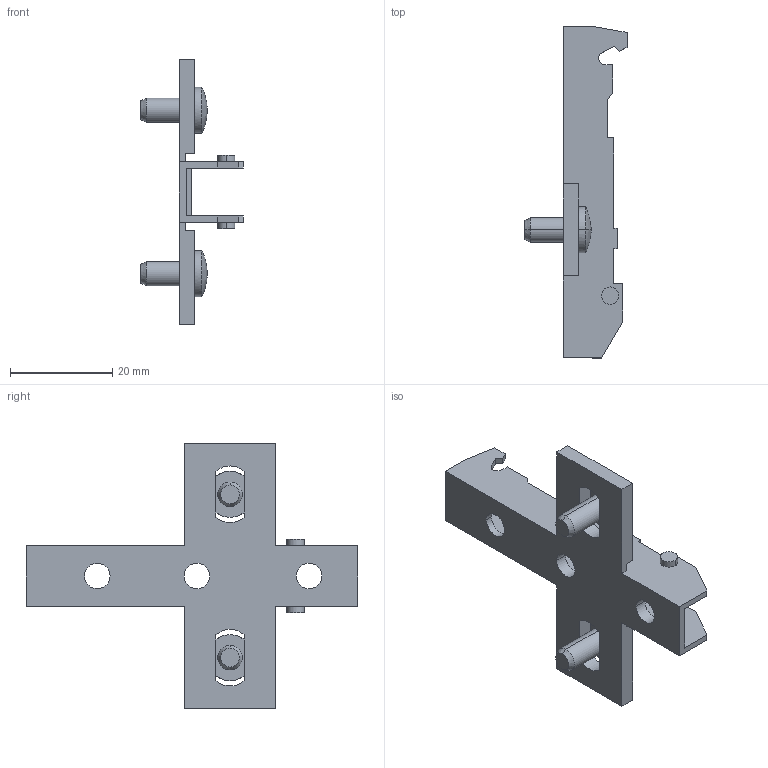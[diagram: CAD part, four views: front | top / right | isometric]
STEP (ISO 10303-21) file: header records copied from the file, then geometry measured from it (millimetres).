
FILE_DESCRIPTION (( 'STEP AP214' ), '1' );
FILE_NAME ('Eco Kreuzmontageplatte LR37_32_Euro_vorm. 10,5mm_H02.step', '2010-11-18T10:06:35', ( 'grass' ), ( '' ), 'SwSTEP 2.0', 'SolidWorks 2010', '' );
FILE_SCHEMA (( 'AUTOMOTIVE_DESIGN' ));
Length unit declared in the file: millimetre
Products named in the file (1): Eco Kreuzmontageplatte LR37_32_Euro_vorm. 10,5mm_H02
Bounding box: 20 x 65 x 52 mm (x, y, z)
Volume: 4949.7 mm3; surface area: 6330.1 mm2
Topology: 1 solids, 1 shells, 104 faces, 292 edges, 190 vertices
Faces by surface type: plane 70, cylinder 26, cone 4, sphere 4
Entity records: 3394 total; most frequent: CARTESIAN_POINT 587, ORIENTED_EDGE 584, DIRECTION 570, EDGE_CURVE 292, VECTOR 224, LINE 224, VERTEX_POINT 190, AXIS2_PLACEMENT_3D 173
